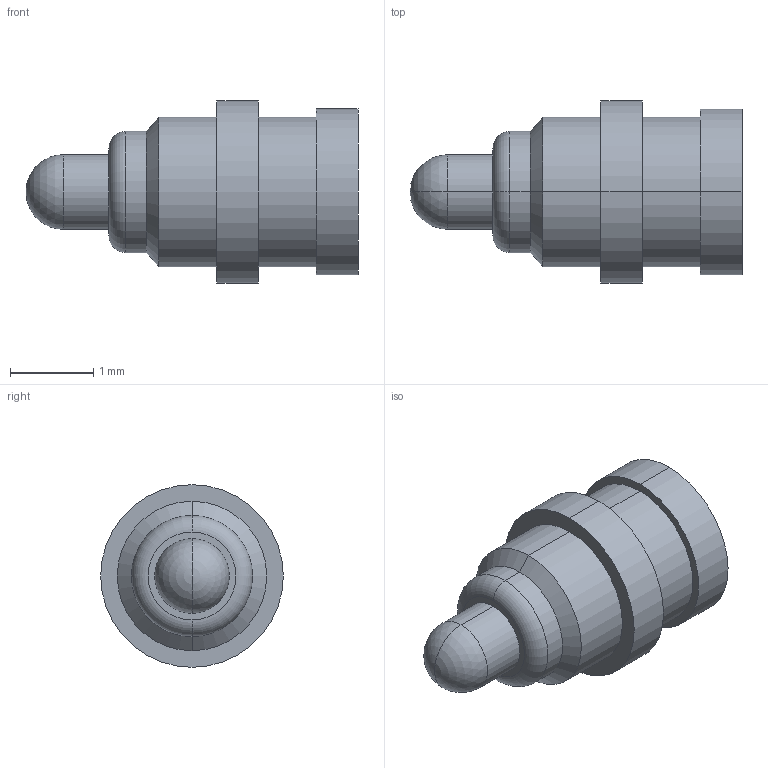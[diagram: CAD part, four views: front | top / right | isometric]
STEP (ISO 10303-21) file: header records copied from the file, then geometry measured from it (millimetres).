
FILE_DESCRIPTION((''),'2;1');
FILE_NAME('NC2655-01','2022-07-07T15:10:24',('Administrator'),(''),'CREO PARAMETRIC BY PTC INC, 2018400','CREO PARAMETRIC BY PTC INC, 2018400','');
FILE_SCHEMA(('CONFIG_CONTROL_DESIGN'));
Length unit declared in the file: millimetre
Products named in the file (1): NC2655-01
Bounding box: 4 x 2.2 x 2.2 mm (x, y, z)
Volume: 8.6 mm3; surface area: 27.4 mm2
Topology: 1 solids, 1 shells, 23 faces, 46 edges, 27 vertices
Faces by surface type: cylinder 12, plane 5, cone 2, torus 2, sphere 2
Entity records: 630 total; most frequent: DIRECTION 120, CARTESIAN_POINT 94, ORIENTED_EDGE 88, AXIS2_PLACEMENT_3D 53, EDGE_CURVE 44, CIRCLE 30, VERTEX_POINT 27, EDGE_LOOP 27
